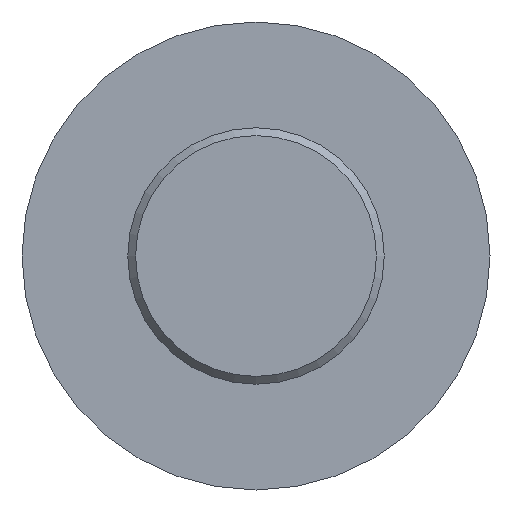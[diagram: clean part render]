
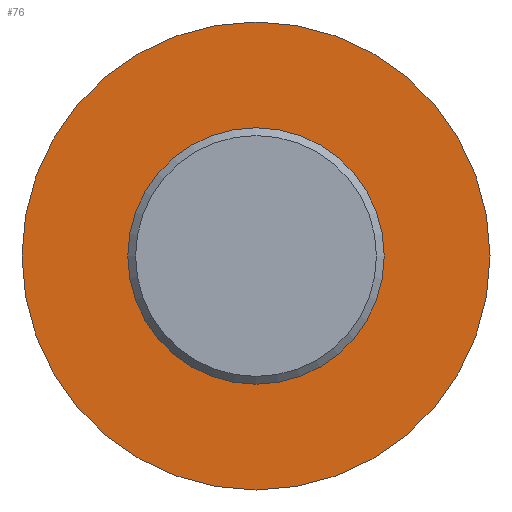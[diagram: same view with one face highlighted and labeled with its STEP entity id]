
A CAD part, left-side view. The second image highlights one B-rep face of the part: STEP entity #76.
In plain terms, the highlighted planar face has unit normal (-1, 0, 0).
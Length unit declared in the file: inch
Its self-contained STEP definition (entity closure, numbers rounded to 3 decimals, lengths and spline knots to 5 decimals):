
#16=FACE_BOUND('',#28,.T.);
#17=PLANE('',#100);
#21=FACE_OUTER_BOUND('',#27,.T.);
#27=EDGE_LOOP('',(#61));
#28=EDGE_LOOP('',(#62));
#40=CIRCLE('',#99,2.3622);
#41=CIRCLE('',#101,1.29449);
#45=VERTEX_POINT('',#139);
#46=VERTEX_POINT('',#143);
#51=EDGE_CURVE('',#45,#45,#40,.T.);
#52=EDGE_CURVE('',#46,#46,#41,.T.);
#61=ORIENTED_EDGE('',*,*,#51,.F.);
#62=ORIENTED_EDGE('',*,*,#52,.F.);
#76=ADVANCED_FACE('',(#21,#16),#17,.T.);
#99=AXIS2_PLACEMENT_3D('',#141,#115,#116);
#100=AXIS2_PLACEMENT_3D('',#142,#117,#118);
#101=AXIS2_PLACEMENT_3D('',#144,#119,#120);
#115=DIRECTION('center_axis',(1.,0.,0.));
#116=DIRECTION('ref_axis',(0.,0.,-1.));
#117=DIRECTION('center_axis',(-1.,0.,0.));
#118=DIRECTION('ref_axis',(0.,0.,1.));
#119=DIRECTION('center_axis',(-1.,0.,0.));
#120=DIRECTION('ref_axis',(0.,0.,1.));
#139=CARTESIAN_POINT('',(4.41437,0.,2.3622));
#141=CARTESIAN_POINT('Origin',(4.41437,0.,0.));
#142=CARTESIAN_POINT('Origin',(4.41437,2.3622,0.));
#143=CARTESIAN_POINT('',(4.41437,0.,1.29449));
#144=CARTESIAN_POINT('Origin',(4.41437,0.,0.));
